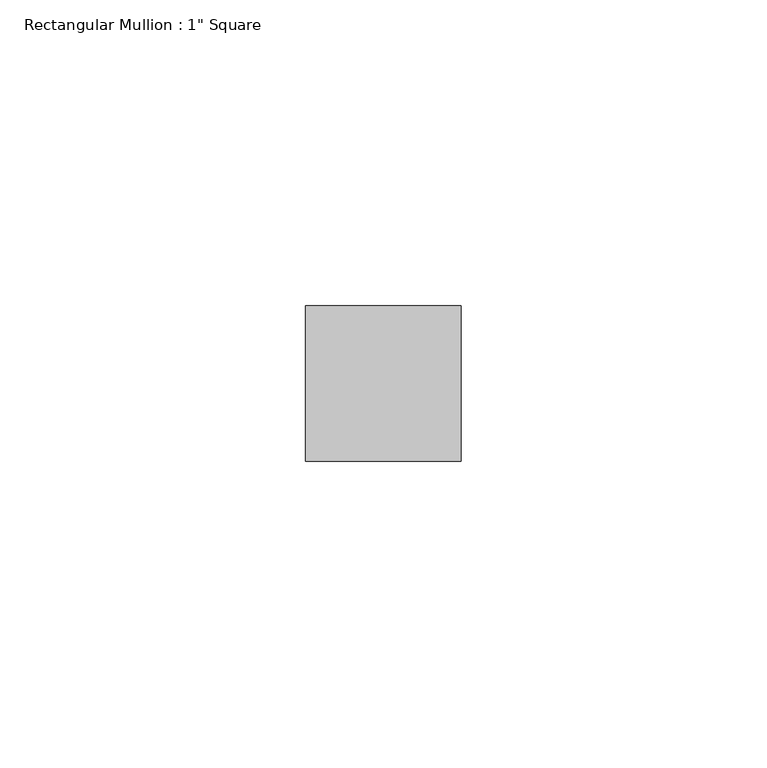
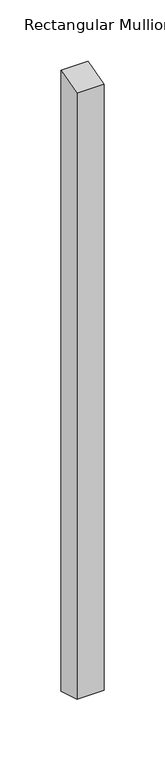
"""IFC4 building model written with IfcOpenShell, lengths in millimetres: member geometry."""

import ifcopenshell
import ifcopenshell.guid

model = None  # the IFC model being written
_history = None  # IfcOwnerHistory: only IFC2X3 demands one
_inside = {}  # id of a spatial element -> (the spatial element, [elements in it])
_under = {}  # id of a project, library or spatial element -> (it, [spatial elements below it])
_declared = {}  # id of a project -> (the project, [libraries it declares])
_typed = {}  # id of a type object -> (the type object, [elements of that type])
_made_of = {}  # id of a material, layer set ... -> (it, [elements and type objects made of it])


def new_model(schema):
    """Start an empty IFC model of exactly this schema.

    Asked for "IFC4X3", IfcOpenShell would pick the latest addendum, in which some entities
    have other attributes; the version numbers below select the first issue.
    IFC2X3 requires an IfcOwnerHistory on every rooted entity: one is made here for all.
    """
    global model, _history
    if schema == "IFC4X3":
        model = ifcopenshell.file(schema_version=(4, 3, 0, 0))
    else:
        model = ifcopenshell.file(schema=schema)
    _inside.clear()
    _under.clear()
    _declared.clear()
    _typed.clear()
    _made_of.clear()
    _history = None
    if model.schema == "IFC2X3":
        org = make("IfcOrganization", Name="unknown")
        user = make(
            "IfcPersonAndOrganization",
            ThePerson=make("IfcPerson", FamilyName="unknown"),
            TheOrganization=org,
        )
        app = make(
            "IfcApplication",
            ApplicationDeveloper=org,
            Version="unknown",
            ApplicationFullName="unknown",
            ApplicationIdentifier="unknown",
        )
        _history = make(
            "IfcOwnerHistory",
            OwningUser=user,
            OwningApplication=app,
            ChangeAction="ADDED",
            CreationDate=0,
        )
    return model


def make(cls, **values):
    """One entity of the class cls with the attributes given. An attribute that is None is left unset."""
    return model.create_entity(
        cls, **{name: value for name, value in values.items() if value is not None}
    )


def rooted(cls, **values):
    """An entity with a GlobalId (a new one), such as an element, a storey or a relation."""
    return make(cls, GlobalId=ifcopenshell.guid.new(), OwnerHistory=_history, **values)


def si_unit(unit_type, name, prefix=None):
    """IfcSIUnit, for example si_unit("LENGTHUNIT", "METRE", prefix="MILLI")."""
    return make("IfcSIUnit", UnitType=unit_type, Prefix=prefix, Name=name)


def assignment(units):
    """IfcUnitAssignment: the units of a project."""
    return None if units is None else make("IfcUnitAssignment", Units=units)


def point(xyz):
    """IfcCartesianPoint."""
    return None if xyz is None else make("IfcCartesianPoint", Coordinates=xyz)


def direction(xyz):
    """IfcDirection."""
    return None if xyz is None else make("IfcDirection", DirectionRatios=xyz)


def frame(location, z_axis=None, x_axis=None):
    """IfcAxis2Placement3D, a coordinate frame: its origin and axes. An axis left out is left unset."""
    return make(
        "IfcAxis2Placement3D",
        Location=point(location),
        Axis=direction(z_axis),
        RefDirection=direction(x_axis),
    )


def origin():
    """The frame at (0, 0, 0) with its axes left unset."""
    return frame((0.0, 0.0, 0.0))


def place(relative_to, where):
    """IfcLocalPlacement: puts the frame where relative to a parent placement (None: the world)."""
    return make(
        "IfcLocalPlacement", PlacementRelTo=relative_to, RelativePlacement=where
    )


def context(
    kind, dimensions, precision=None, world=None, true_north=None, identifier=None
):
    """IfcGeometricRepresentationContext, for example the 3D "Model" context."""
    return make(
        "IfcGeometricRepresentationContext",
        ContextIdentifier=identifier,
        ContextType=kind,
        CoordinateSpaceDimension=dimensions,
        Precision=precision,
        WorldCoordinateSystem=world,
        TrueNorth=true_north,
    )


def project(units=None, contexts=None):
    """IfcProject with its units and contexts."""
    return rooted(
        "IfcProject",
        Name="project",
        RepresentationContexts=contexts,
        UnitsInContext=assignment(units),
    )


def spatial(cls, under=None, at=None, **own):
    """A site, building, storey or space (cls), placed at a placement, below another one or the project."""
    s = rooted(cls, ObjectPlacement=at, **own)
    if under is not None:
        _under.setdefault(under.id(), (under, []))[1].append(s)
    return s


def faces_of(points, faces, orient=None, outer=None):
    """IfcFace entities. A face is a list of loops; a loop is a list of indices into points, from 0.

    orient and outer hold one flag for each loop. By default every Orientation is true, the
    first loop of a face is its IfcFaceOuterBound and the others are IfcFaceBound.
    """
    made = []
    for i, loops in enumerate(faces):
        bounds = []
        for j, loop in enumerate(loops):
            is_outer = j == 0 if outer is None else outer[i][j]
            bounds.append(
                make(
                    "IfcFaceOuterBound" if is_outer else "IfcFaceBound",
                    Bound=make("IfcPolyLoop", Polygon=[points[k] for k in loop]),
                    Orientation=True if orient is None else orient[i][j],
                )
            )
        made.append(make("IfcFace", Bounds=bounds))
    return made


def faceted_brep(points, faces, orient=None, outer=None, voids=None):
    """IfcFacetedBrep: a solid bounded by flat faces; with voids (closed shells), ...WithVoids."""
    shared = [point(p) for p in points]
    hull = make("IfcClosedShell", CfsFaces=faces_of(shared, faces, orient, outer))
    if voids is None:
        return make("IfcFacetedBrep", Outer=hull)
    return make(
        "IfcFacetedBrepWithVoids",
        Outer=hull,
        Voids=[
            make(cls, CfsFaces=faces_of(shared, fs, o, b)) for cls, fs, o, b in voids
        ],
    )


def shape(context_of_items, identifier, shape_type, items):
    """IfcShapeRepresentation: the items that make up one representation, for example the "Body"."""
    return make(
        "IfcShapeRepresentation",
        ContextOfItems=context_of_items,
        RepresentationIdentifier=identifier,
        RepresentationType=shape_type,
        Items=items,
    )


def source(mapping_origin, context_of_items, identifier, shape_type, items):
    """IfcRepresentationMap: a shape defined once, which mapped items show again and again."""
    return make(
        "IfcRepresentationMap",
        MappingOrigin=mapping_origin,
        MappedRepresentation=shape(context_of_items, identifier, shape_type, items),
    )


def transform(
    local_origin,
    x_axis=None,
    y_axis=None,
    z_axis=None,
    scale=None,
    scale2=None,
    scale3=None,
    uniform=True,
):
    """IfcCartesianTransformationOperator3D, or its non-uniform kind. x_axis, y_axis, z_axis: its Axis1, 2, 3."""
    if uniform:
        return make(
            "IfcCartesianTransformationOperator3D",
            Axis1=direction(x_axis),
            Axis2=direction(y_axis),
            LocalOrigin=point(local_origin),
            Scale=scale,
            Axis3=direction(z_axis),
        )
    return make(
        "IfcCartesianTransformationOperator3DnonUniform",
        Axis1=direction(x_axis),
        Axis2=direction(y_axis),
        LocalOrigin=point(local_origin),
        Scale=scale,
        Axis3=direction(z_axis),
        Scale2=scale2,
        Scale3=scale3,
    )


def mapped(mapping_source, mapping_target):
    """IfcMappedItem: shows the shape of a source again, moved by a transform."""
    return make(
        "IfcMappedItem", MappingSource=mapping_source, MappingTarget=mapping_target
    )


def made_of(thing, what):
    """Note that an element or type object is made of a material, layer set ...; save() writes the relation."""
    if what is not None:
        _made_of.setdefault(what.id(), (what, []))[1].append(thing)
    return thing


def element(
    cls,
    number,
    at=None,
    inside=None,
    cuts=None,
    type_object=None,
    material=None,
    context=None,
    identifier="Body",
    shape_type=None,
    held_by="IfcProductDefinitionShape",
    body=None,
    shapes=None,
    **own,
):
    """One element of the class cls, such as IfcWall. Its Tag is "e" and its number.

    at: its placement. inside: the storey or other place that contains it. cuts: it is an
    opening in that element (IfcRelVoidsElement). A single representation is given by context,
    identifier, shape_type and body (its items); several are given by shapes. held_by: the class
    of the entity that holds the representations. save() writes the other relations.
    """
    e = rooted(cls, Tag="e%d" % number, ObjectPlacement=at, **own)
    if body is not None:
        shapes = [shape(context, identifier, shape_type, body)]
    if shapes is not None:
        e.Representation = make(held_by, Representations=shapes)
    if inside is not None:
        _inside.setdefault(inside.id(), (inside, []))[1].append(e)
    if cuts is not None:
        rooted(
            "IfcRelVoidsElement", RelatingBuildingElement=cuts, RelatedOpeningElement=e
        )
    if type_object is not None:
        _typed.setdefault(type_object.id(), (type_object, []))[1].append(e)
    return made_of(e, material)


def aggregate(whole, parts):
    """IfcRelAggregates: a whole, such as a stair, and the parts it consists of."""
    return rooted("IfcRelAggregates", RelatingObject=whole, RelatedObjects=parts)


def save(model, path):
    """Write the relations noted so far, then the file.

    IfcRelAggregates (storeys below a building ...), IfcRelContainedInSpatialStructure (elements
    in a storey), IfcRelDefinesByType, IfcRelAssociatesMaterial and IfcRelDeclares: one each for
    every whole, place, type object, material and project.
    """
    for whole, parts in _under.values():
        aggregate(whole, parts)
    for where, things in _inside.values():
        rooted(
            "IfcRelContainedInSpatialStructure",
            RelatedElements=things,
            RelatingStructure=where,
        )
    for kind, things in _typed.values():
        rooted("IfcRelDefinesByType", RelatedObjects=things, RelatingType=kind)
    for what, things in _made_of.values():
        rooted("IfcRelAssociatesMaterial", RelatedObjects=things, RelatingMaterial=what)
    for by, libraries in _declared.values():
        rooted("IfcRelDeclares", RelatingContext=by, RelatedDefinitions=libraries)
    model.write(path)


def member_9f1fe171(model_context):
    return source(origin(), model_context, "Body", "Brep", [
        faceted_brep([(-25.4, 12.7, 3.7282462), (0.0, 12.7, 3.7084271), (0.0, 12.7, -613.3084271), (-25.4, 12.7, -613.3282462), (-25.4, -12.7, -3.6886079), (-25.4, -12.7, -605.9113921), (0.0, -12.7, -3.7084271), (0.0, -12.7, -605.8915729)], [[[0, 1, 2, 3]], [[4, 0, 3, 5]], [[6, 4, 5, 7]], [[1, 6, 7, 2]], [[1, 0, 4, 6]], [[2, 7, 5, 3]]]),
    ])


if __name__ == "__main__":
    model = new_model("IFC4")
    model_context = context("Model", 3, world=origin())
    ifc_project = project(units=[si_unit("LENGTHUNIT", "METRE", prefix="MILLI")], contexts=[model_context])
    site = spatial("IfcSite", under=ifc_project)
    building = spatial("IfcBuilding", under=site)
    placement = place(None, origin())
    member_shape = member_9f1fe171(model_context)
    element("IfcMember", 1, ObjectType="Rectangular Mullion : 1\" Square", at=placement, inside=building, context=model_context, shape_type="MappedRepresentation", body=[
        mapped(member_shape, transform((0.0, 0.0, 0.0), x_axis=(1.0, 0.0, 0.0), y_axis=(0.0, 1.0, 0.0), z_axis=(0.0, 0.0, 1.0))),
    ])
    save(model, "model.ifc")
